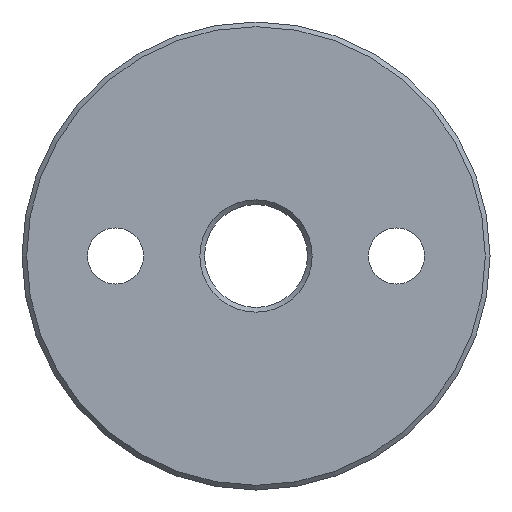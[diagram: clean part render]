
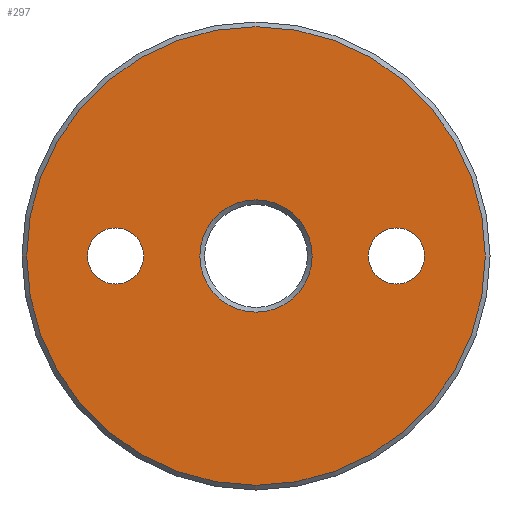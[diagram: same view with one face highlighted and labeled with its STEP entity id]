
A CAD part, front view. The second image highlights one B-rep face of the part: STEP entity #297.
In plain terms, the highlighted planar face has unit normal (0, -1, 0).
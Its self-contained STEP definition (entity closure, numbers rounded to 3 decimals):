
#16 = FACE_OUTER_BOUND ( 'NONE', #338, .T. ) ;
#18 = CARTESIAN_POINT ( 'NONE',  ( 6., 0., 0. ) ) ;
#19 = CARTESIAN_POINT ( 'NONE',  ( -6., 0., 0. ) ) ;
#38 = CIRCLE ( 'NONE', #136, 2.4 ) ;
#50 = VERTEX_POINT ( 'NONE', #206 ) ;
#53 = CARTESIAN_POINT ( 'NONE',  ( 0., 0., 9.8 ) ) ;
#61 = EDGE_LOOP ( 'NONE', ( #334 ) ) ;
#63 = EDGE_CURVE ( 'NONE', #83, #83, #72, .T. ) ;
#66 = DIRECTION ( 'NONE',  ( 0., 1., 0. ) ) ;
#72 = CIRCLE ( 'NONE', #327, 9.8 ) ;
#80 = FACE_BOUND ( 'NONE', #199, .T. ) ;
#83 = VERTEX_POINT ( 'NONE', #53 ) ;
#89 = EDGE_CURVE ( 'NONE', #333, #333, #38, .T. ) ;
#109 = DIRECTION ( 'NONE',  ( 0., 1., 0. ) ) ;
#116 = ORIENTED_EDGE ( 'NONE', *, *, #63, .T. ) ;
#121 = DIRECTION ( 'NONE',  ( 0., 0., 1. ) ) ;
#130 = DIRECTION ( 'NONE',  ( 0., 0., 1. ) ) ;
#136 = AXIS2_PLACEMENT_3D ( 'NONE', #235, #66, #344 ) ;
#137 = CARTESIAN_POINT ( 'NONE',  ( -6., 0., 1.2 ) ) ;
#138 = CIRCLE ( 'NONE', #292, 1.2 ) ;
#154 = CARTESIAN_POINT ( 'NONE',  ( 0., 0., 0. ) ) ;
#162 = VERTEX_POINT ( 'NONE', #137 ) ;
#166 = EDGE_LOOP ( 'NONE', ( #224 ) ) ;
#172 = EDGE_CURVE ( 'NONE', #162, #162, #201, .T. ) ;
#186 = DIRECTION ( 'NONE',  ( 0., 0., 1. ) ) ;
#191 = PLANE ( 'NONE',  #248 ) ;
#199 = EDGE_LOOP ( 'NONE', ( #275 ) ) ;
#201 = CIRCLE ( 'NONE', #214, 1.2 ) ;
#206 = CARTESIAN_POINT ( 'NONE',  ( 6., 0., 1.2 ) ) ;
#214 = AXIS2_PLACEMENT_3D ( 'NONE', #19, #109, #186 ) ;
#220 = FACE_BOUND ( 'NONE', #166, .T. ) ;
#223 = FACE_BOUND ( 'NONE', #61, .T. ) ;
#224 = ORIENTED_EDGE ( 'NONE', *, *, #172, .T. ) ;
#228 = CARTESIAN_POINT ( 'NONE',  ( 0., 0., 2.4 ) ) ;
#235 = CARTESIAN_POINT ( 'NONE',  ( 0., 0., 0. ) ) ;
#236 = EDGE_CURVE ( 'NONE', #50, #50, #138, .T. ) ;
#248 = AXIS2_PLACEMENT_3D ( 'NONE', #300, #266, #130 ) ;
#266 = DIRECTION ( 'NONE',  ( 0., 1., 0. ) ) ;
#275 = ORIENTED_EDGE ( 'NONE', *, *, #236, .T. ) ;
#288 = DIRECTION ( 'NONE',  ( 0., -1., 0. ) ) ;
#292 = AXIS2_PLACEMENT_3D ( 'NONE', #18, #298, #347 ) ;
#297 = ADVANCED_FACE ( 'NONE', ( #223, #16, #220, #80 ), #191, .F. ) ;
#298 = DIRECTION ( 'NONE',  ( 0., 1., 0. ) ) ;
#300 = CARTESIAN_POINT ( 'NONE',  ( 0., 0., 0. ) ) ;
#327 = AXIS2_PLACEMENT_3D ( 'NONE', #154, #288, #121 ) ;
#333 = VERTEX_POINT ( 'NONE', #228 ) ;
#334 = ORIENTED_EDGE ( 'NONE', *, *, #89, .T. ) ;
#338 = EDGE_LOOP ( 'NONE', ( #116 ) ) ;
#344 = DIRECTION ( 'NONE',  ( 0., 0., 1. ) ) ;
#347 = DIRECTION ( 'NONE',  ( 0., 0., 1. ) ) ;
